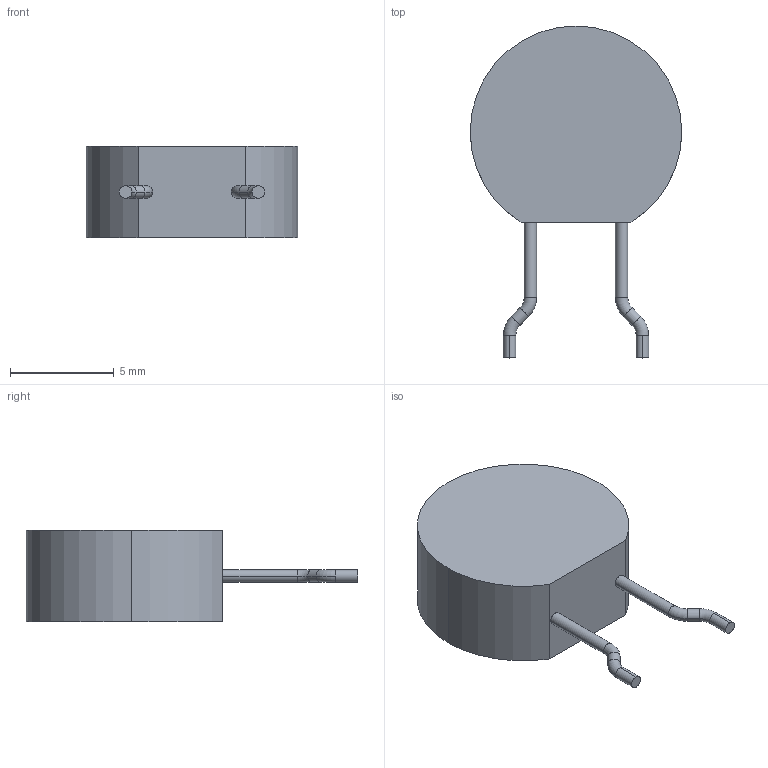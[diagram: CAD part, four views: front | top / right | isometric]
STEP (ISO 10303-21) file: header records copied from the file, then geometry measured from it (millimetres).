
FILE_DESCRIPTION (( 'STEP AP214' ), '1' );
FILE_NAME ( 'CAPRB640W60L1020T440H1500P.STEP', '2014-04-11T12:31:23', ( '' ), ( '' ), 'FPX Expert 2013', 'PCB Libraries', '' );
FILE_SCHEMA (( 'AUTOMOTIVE_DESIGN' ));
Length unit declared in the file: millimetre
Products named in the file (1): CAPRB640W60L1020T440H1500P
Bounding box: 10.2 x 16 x 4.4 mm (x, y, z)
Volume: 352.4 mm3; surface area: 325.2 mm2
Topology: 3 solids, 3 shells, 30 faces, 60 edges, 36 vertices
Faces by surface type: cylinder 15, torus 8, plane 7
Entity records: 928 total; most frequent: DIRECTION 164, CARTESIAN_POINT 127, ORIENTED_EDGE 120, AXIS2_PLACEMENT_3D 73, EDGE_CURVE 60, CIRCLE 42, VERTEX_POINT 36, STYLED_ITEM 34
